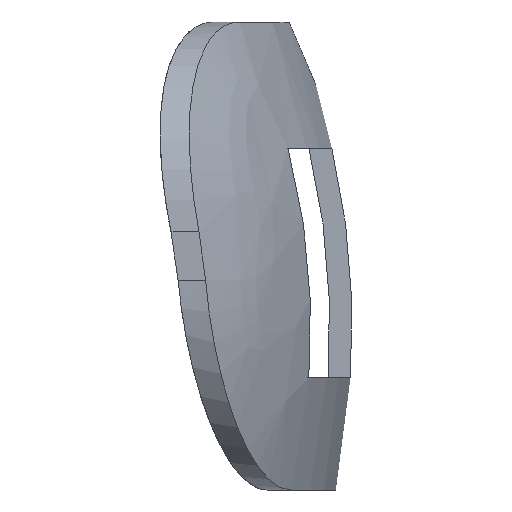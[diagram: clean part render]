
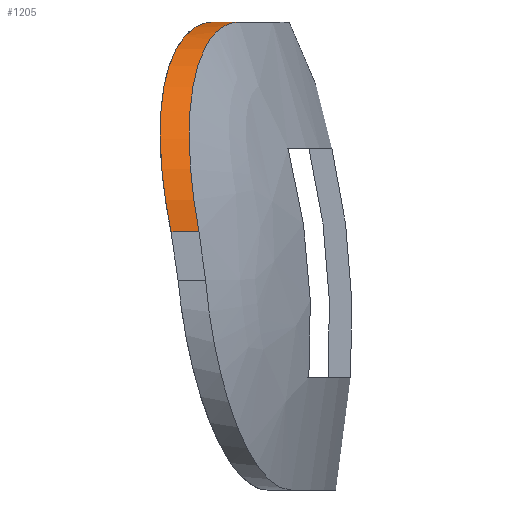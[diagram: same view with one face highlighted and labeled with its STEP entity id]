
A CAD part, left-side view. The second image highlights one B-rep face of the part: STEP entity #1205.
In plain terms, the highlighted cylindrical face has radius 30 mm (diameter 60 mm), a partial arc.
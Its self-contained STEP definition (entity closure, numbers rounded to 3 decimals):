
#304=CARTESIAN_POINT('',(-17.0,-34.799,214.5));
#305=CARTESIAN_POINT('',(-19.084,-33.958,214.5));
#306=CARTESIAN_POINT('',(-21.182,-33.136,214.331));
#307=CARTESIAN_POINT('',(-23.285,-32.34,213.989));
#308=CARTESIAN_POINT('',(-25.38,-31.578,213.469));
#309=CARTESIAN_POINT('',(-27.452,-30.859,212.764));
#310=CARTESIAN_POINT('',(-29.483,-30.196,211.872));
#311=CARTESIAN_POINT('',(-32.509,-29.28,210.209));
#312=CARTESIAN_POINT('',(-33.548,-28.98,209.573));
#313=CARTESIAN_POINT('',(-34.565,-28.7,208.882));
#314=CARTESIAN_POINT('',(-35.557,-28.444,208.138));
#315=CARTESIAN_POINT('',(-36.519,-28.213,207.34));
#316=CARTESIAN_POINT('',(-37.446,-28.009,206.49));
#317=CARTESIAN_POINT('',(-39.035,-27.694,204.883));
#318=CARTESIAN_POINT('',(-39.711,-27.573,204.144));
#319=CARTESIAN_POINT('',(-40.36,-27.47,203.376));
#320=CARTESIAN_POINT('',(-40.982,-27.386,202.581));
#321=CARTESIAN_POINT('',(-41.573,-27.321,201.759));
#322=CARTESIAN_POINT('',(-42.132,-27.274,200.914));
#323=CARTESIAN_POINT('',(-43.166,-27.221,199.207));
#324=CARTESIAN_POINT('',(-43.644,-27.212,198.346));
#325=CARTESIAN_POINT('',(-44.089,-27.221,197.467));
#326=CARTESIAN_POINT('',(-44.499,-27.248,196.571));
#327=CARTESIAN_POINT('',(-44.875,-27.292,195.663));
#328=CARTESIAN_POINT('',(-45.214,-27.353,194.743));
#329=CARTESIAN_POINT('',(-45.664,-27.466,193.366));
#330=CARTESIAN_POINT('',(-45.801,-27.507,192.917));
#331=CARTESIAN_POINT('',(-45.93,-27.551,192.467));
#332=CARTESIAN_POINT('',(-46.051,-27.598,192.014));
#333=CARTESIAN_POINT('',(-46.164,-27.65,191.56));
#334=CARTESIAN_POINT('',(-46.268,-27.704,191.105));
#335=CARTESIAN_POINT('',(-46.546,-27.873,189.774));
#336=CARTESIAN_POINT('',(-46.699,-27.996,188.894));
#337=CARTESIAN_POINT('',(-46.82,-28.131,188.013));
#338=CARTESIAN_POINT('',(-46.91,-28.276,187.132));
#339=CARTESIAN_POINT('',(-46.97,-28.432,186.252));
#340=CARTESIAN_POINT('',(-47.0,-28.598,185.374));
#341=CARTESIAN_POINT('',(-47.0,-28.773,184.5));
#342=B_SPLINE_CURVE_WITH_KNOTS('',7,(#341,#340,#339,#338,#337,#336,#335,#334,#333,#332,#331,#330,#329,#328,#327,#326,#325,#324,#323,#322,#321,#320,#319,#318,#317,#316,#315,#314,#313,#312,#311,#310,#309,#308,#307,#306,#305,#304),.UNSPECIFIED.,.U.,.U.,(8,6,6,6,6,6,8),(0.0,0.129,0.195,0.335,0.478,0.66,1.0),.UNSPECIFIED.);
#343=VERTEX_POINT('',#304);
#344=VERTEX_POINT('',#341);
#345=EDGE_CURVE('',#344,#343,#342,.T.);
#579=DIRECTION('',(0.0,1.0,0.0));
#954=VECTOR('',#579,4.008);
#975=VECTOR('',#579,3.779);
#1085=CARTESIAN_POINT('',(-17.0,-38.578,214.5));
#1129=VERTEX_POINT('',#1085);
#1132=LINE('',#1085,#975);
#1133=EDGE_CURVE('',#1129,#343,#1132,.T.);
#1144=CARTESIAN_POINT('',(-47.0,-32.78,184.5));
#1146=VERTEX_POINT('',#1144);
#1151=LINE('',#1144,#954);
#1152=EDGE_CURVE('',#1146,#344,#1151,.T.);
#1157=CARTESIAN_POINT('',(-17.0,-87.0,184.5));
#1158=DIRECTION('',(0.707,0.0,-0.707));
#1159=AXIS2_PLACEMENT_3D('',#1157,#579,#1158);
#1160=CYLINDRICAL_SURFACE('',#1159,30.0);
#1161=CARTESIAN_POINT('',(-19.026,-37.799,214.5));
#1162=CARTESIAN_POINT('',(-21.066,-37.039,214.34));
#1163=CARTESIAN_POINT('',(-23.109,-36.303,214.017));
#1164=CARTESIAN_POINT('',(-25.145,-35.599,213.526));
#1165=CARTESIAN_POINT('',(-27.158,-34.935,212.862));
#1166=CARTESIAN_POINT('',(-29.132,-34.32,212.023));
#1167=CARTESIAN_POINT('',(-32.152,-33.444,210.422));
#1168=CARTESIAN_POINT('',(-33.237,-33.143,209.779));
#1169=CARTESIAN_POINT('',(-34.299,-32.864,209.076));
#1170=CARTESIAN_POINT('',(-35.333,-32.608,208.316));
#1171=CARTESIAN_POINT('',(-36.335,-32.377,207.499));
#1172=CARTESIAN_POINT('',(-37.3,-32.172,206.628));
#1173=CARTESIAN_POINT('',(-38.965,-31.854,204.961));
#1174=CARTESIAN_POINT('',(-39.68,-31.731,204.185));
#1175=CARTESIAN_POINT('',(-40.365,-31.626,203.376));
#1176=CARTESIAN_POINT('',(-41.019,-31.54,202.537));
#1177=CARTESIAN_POINT('',(-41.64,-31.474,201.669));
#1178=CARTESIAN_POINT('',(-42.224,-31.428,200.776));
#1179=CARTESIAN_POINT('',(-43.28,-31.376,199.004));
#1180=CARTESIAN_POINT('',(-43.756,-31.368,198.129));
#1181=CARTESIAN_POINT('',(-44.199,-31.377,197.236));
#1182=CARTESIAN_POINT('',(-44.606,-31.402,196.327));
#1183=CARTESIAN_POINT('',(-44.978,-31.444,195.404));
#1184=CARTESIAN_POINT('',(-45.312,-31.502,194.47));
#1185=CARTESIAN_POINT('',(-45.754,-31.61,193.069));
#1186=CARTESIAN_POINT('',(-45.889,-31.649,192.61));
#1187=CARTESIAN_POINT('',(-46.016,-31.691,192.15));
#1188=CARTESIAN_POINT('',(-46.134,-31.737,191.687));
#1189=CARTESIAN_POINT('',(-46.243,-31.786,191.224));
#1190=CARTESIAN_POINT('',(-46.344,-31.838,190.759));
#1191=CARTESIAN_POINT('',(-46.598,-31.993,189.468));
#1192=CARTESIAN_POINT('',(-46.733,-32.101,188.64));
#1193=CARTESIAN_POINT('',(-46.84,-32.22,187.811));
#1194=CARTESIAN_POINT('',(-46.92,-32.347,186.981));
#1195=CARTESIAN_POINT('',(-46.974,-32.483,186.152));
#1196=CARTESIAN_POINT('',(-47.0,-32.628,185.324));
#1197=B_SPLINE_CURVE_WITH_KNOTS('',7,(#1144,#1196,#1195,#1194,#1193,#1192,#1191,#1190,#1189,#1188,#1187,#1186,#1185,#1184,#1183,#1182,#1181,#1180,#1179,#1178,#1177,#1176,#1175,#1174,#1173,#1172,#1171,#1170,#1169,#1168,#1167,#1166,#1165,#1164,#1163,#1162,#1161,#1085),.UNSPECIFIED.,.U.,.U.,(8,6,6,6,6,6,8),(0.0,0.121,0.19,0.331,0.483,0.672,1.0),.UNSPECIFIED.);
#1198=EDGE_CURVE('',#1146,#1129,#1197,.T.);
#1199=ORIENTED_EDGE('',*,*,#1198,.T.);
#1200=ORIENTED_EDGE('',*,*,#1152,.F.);
#1201=ORIENTED_EDGE('',*,*,#345,.F.);
#1202=ORIENTED_EDGE('',*,*,#1133,.T.);
#1203=EDGE_LOOP('',(#1202,#1201,#1200,#1199));
#1204=FACE_BOUND('',#1203,.T.);
#1205=ADVANCED_FACE('',(#1204),#1160,.T.);
